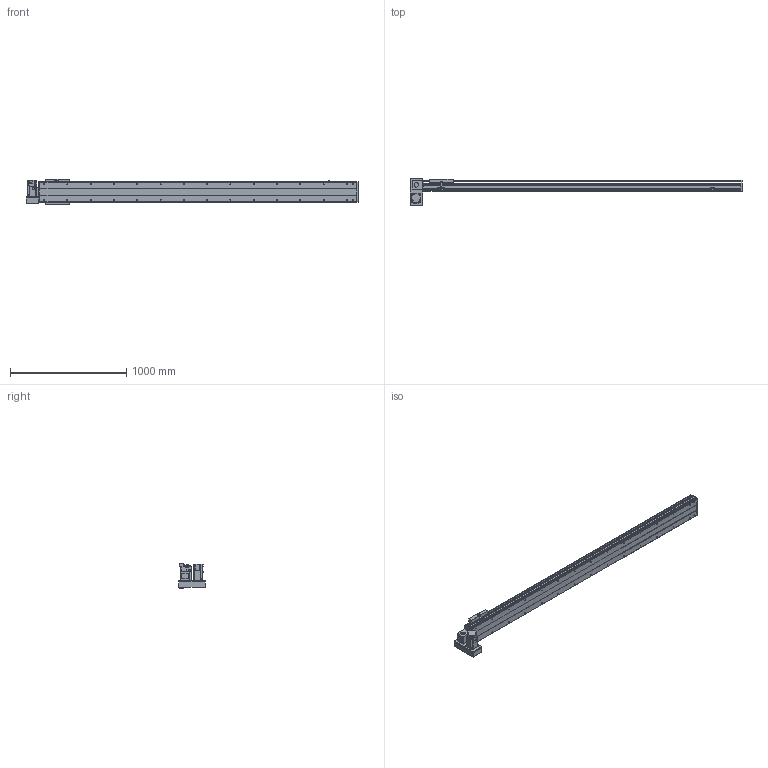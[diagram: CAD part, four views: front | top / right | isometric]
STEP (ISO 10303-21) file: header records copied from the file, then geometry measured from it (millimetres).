
FILE_DESCRIPTION(/* description */ ('STEP AP214'),/* implementation_level */ '2;1');
FILE_NAME(/* name */ 'PBS200-P40-S2350-LD-T75-C1-N(0)',/* time_stamp */ '2022-06-11T08:46:18+02:00',/* author */ ('License CC BY-ND 4.0'),/* organization */ ('CADENAS'),/* preprocessor_version */ 'ST-DEVELOPER v18.102',/* originating_system */ 'PARTsolutions',/* authorisation */ ' ');
FILE_SCHEMA (('AUTOMOTIVE_DESIGN {1 0 10303 214 3 1 1}'));
Length unit declared in the file: millimetre
Products named in the file (7): PBS200-P40-S2350-LD-T75-C1-N(0); PBS200_sensor; PBS200_plant; PBS200_sliser; T75-p1; PBS200T-LD_motors; PBS200-S2350()_body
Assembly tree (8 placements, depth 2):
  PBS200-P40-S2350-LD-T75-C1-N(0)
    PBS200_sensor  x3
    PBS200_plant
    PBS200_sliser
    T75-p1
    PBS200T-LD_motors
    PBS200-S2350()_body
Bounding box: 2850 x 230 x 221 mm (x, y, z)
Volume: 19666858.6 mm3; surface area: 3148900.9 mm2
Topology: 8 solids, 8 shells, 962 faces, 2444 edges, 1590 vertices
Faces by surface type: plane 588, cylinder 312, cone 62
Full cylindrical faces by diameter (mm): 2.459 x6, 3.242 x4, 4.5 x6, 4.917 x4, 5 x6, 6 x7, 6.6 x8, 6.647 x34, 8 x6, 10 x4, 12 x8, 38 x2, 40 x1, 70 x1
Entity records: 25421 total; most frequent: DIRECTION 4495, CARTESIAN_POINT 4318, ORIENTED_EDGE 4066, EDGE_CURVE 2033, AXIS2_PLACEMENT_3D 1591, VERTEX_POINT 1414, LINE 1313, VECTOR 1313
